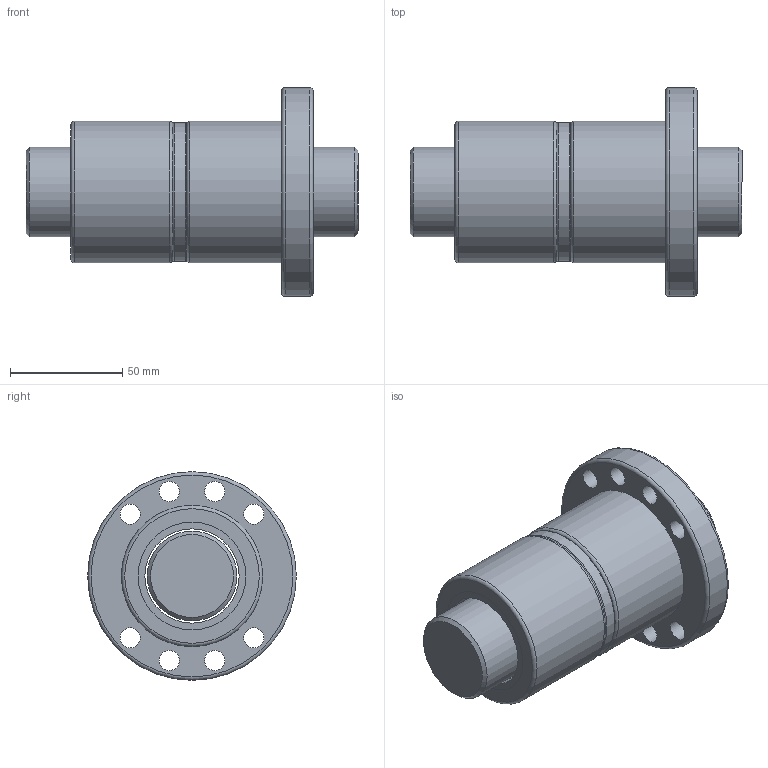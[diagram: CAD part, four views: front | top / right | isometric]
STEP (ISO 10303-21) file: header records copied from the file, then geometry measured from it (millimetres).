
FILE_DESCRIPTION(/* description */ (''),/* implementation_level */ '2;1');
FILE_NAME(/* name */ 'DFU4006',/* time_stamp */ '2007-10-26T10:58:37+08:00',/* author */ (''),/* organization */ (''),/* preprocessor_version */ 'ST-DEVELOPER v9',/* originating_system */ 'EDS PLM SOLUTIONS - UNIGRAPHICS NX 1.0',/* authorisation */ '');
FILE_SCHEMA (('CONFIG_CONTROL_DESIGN'));
Length unit declared in the file: millimetre
Products named in the file (1): FANNDA0400d0
Bounding box: 148 x 93 x 93 mm (x, y, z)
Volume: 415901.8 mm3; surface area: 81974 mm2
Topology: 6 solids, 6 shells, 46 faces, 92 edges, 61 vertices
Faces by surface type: cylinder 22, plane 15, torus 7, cone 2
Full cylindrical faces by diameter (mm): 9 x8, 40 x1, 42 x5, 48 x4, 62 x1, 63 x2, 93 x1
Entity records: 1122 total; most frequent: DIRECTION 200, CARTESIAN_POINT 153, EDGE_LOOP 106, ORIENTED_EDGE 106, AXIS2_PLACEMENT_3D 100, FACE_BOUND 89, VERTEX_POINT 53, EDGE_CURVE 53
